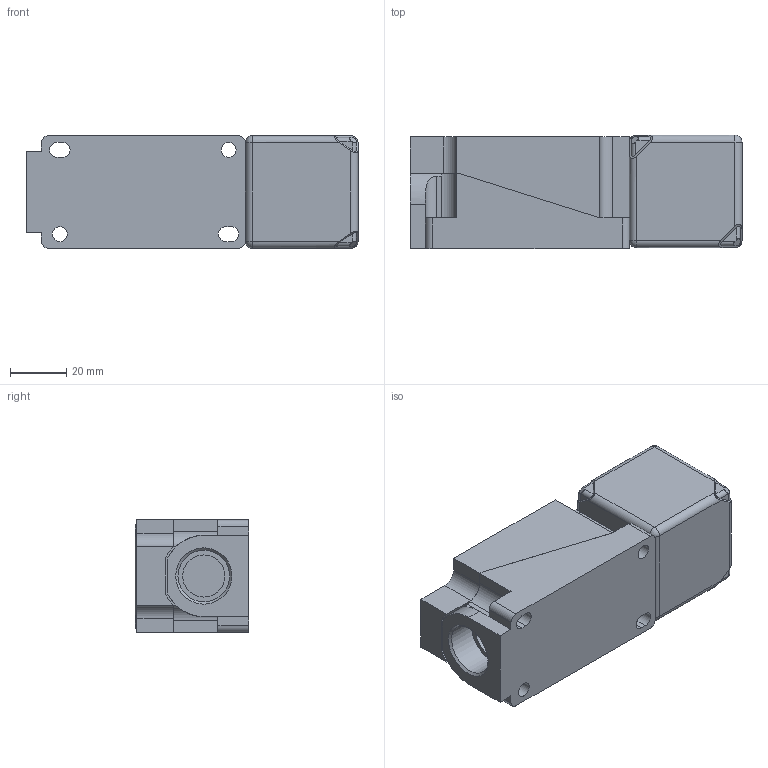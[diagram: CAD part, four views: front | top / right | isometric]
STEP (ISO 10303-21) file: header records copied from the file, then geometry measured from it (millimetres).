
FILE_DESCRIPTION( ( 'STEP AP203' ), ' ' );
FILE_NAME( 'p:/temp/worker_358/1296_1904/app_54_02017051809541046863157192d056f_000000_00_00_000000/format_3/IV5061.stp', '2017-05-18T07:54:16', ( '' ), ( '' ), ' ', 'PARTsolutions', ' ' );
FILE_SCHEMA( ( 'CONFIG_CONTROL_DESIGN' ) );
Length unit declared in the file: millimetre
Products named in the file (3): IV5061; _IV5061_part1; _IV5061_part2
Assembly tree (2 placements, depth 2):
  IV5061
    _IV5061_part1
    _IV5061_part2
Bounding box: 118 x 40.4 x 40 mm (x, y, z)
Volume: 167861.6 mm3; surface area: 26474.5 mm2
Topology: 2 solids, 2 shells, 189 faces, 492 edges, 318 vertices
Faces by surface type: plane 115, cylinder 58, sphere 15, cone 1
Full cylindrical faces by diameter (mm): 4.2 x2, 5.3 x2, 6 x1, 7 x1, 15 x1, 16 x1, 18.376 x1, 24 x1
Entity records: 5828 total; most frequent: DIRECTION 1026, CARTESIAN_POINT 1022, ORIENTED_EDGE 938, EDGE_CURVE 469, AXIS2_PLACEMENT_3D 367, VERTEX_POINT 311, LINE 292, VECTOR 292
